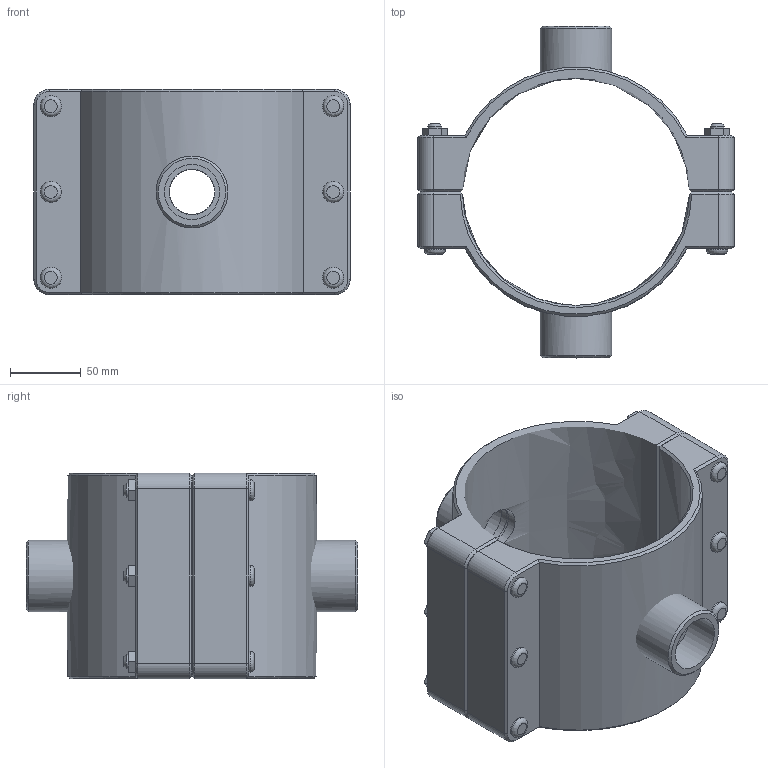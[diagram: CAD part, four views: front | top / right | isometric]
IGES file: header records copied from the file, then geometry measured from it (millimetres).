
Global section: file name: 161760160013_161860160013.ipt; native system: Autodesk Inventor 2015; preprocessor: unknown; author: KIM; date: 20170618.093819; units: millimetre
Bounding box: 223 x 234 x 145 mm (x, y, z)
Volume: 1271564.8 mm3; surface area: 222381.4 mm2
Topology: 3 solids, 3 shells, 179 faces, 416 edges, 265 vertices
Faces by surface type: plane 102, cylinder 30, cone 28, revolution 19
Full cylindrical faces by diameter (mm): 10 x6, 15 x12, 50.638 x2
